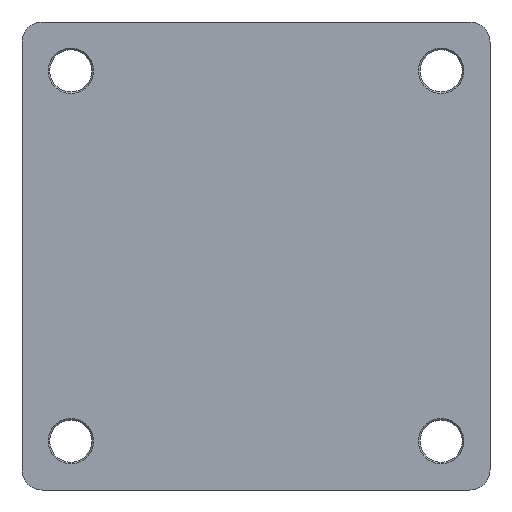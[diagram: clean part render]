
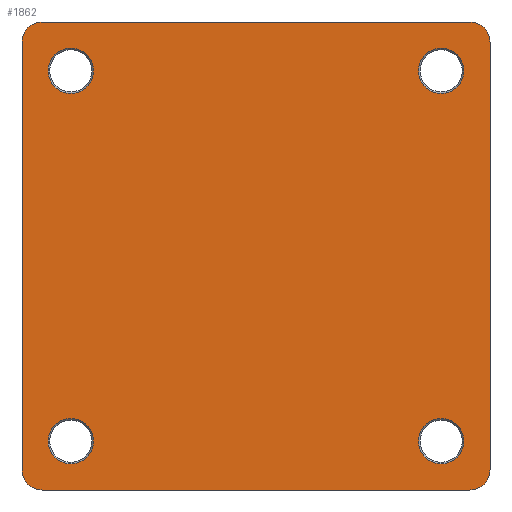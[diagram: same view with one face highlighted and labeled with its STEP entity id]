
A CAD part, left-side view. The second image highlights one B-rep face of the part: STEP entity #1862.
In plain terms, the highlighted planar face has unit normal (-1, 0, 0).
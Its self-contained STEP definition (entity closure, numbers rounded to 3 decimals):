
#3 = CARTESIAN_POINT ( 'NONE',  ( -17., 55., -48.25 ) ) ;
#19 = CIRCLE ( 'NONE', #1056, 6.75 ) ;
#28 = CARTESIAN_POINT ( 'NONE',  ( -17., 55., -61.75 ) ) ;
#47 = CIRCLE ( 'NONE', #243, 6.75 ) ;
#53 = VECTOR ( 'NONE', #1467, 1000. ) ;
#64 = EDGE_CURVE ( 'NONE', #103, #190, #559, .T. ) ;
#68 = EDGE_CURVE ( 'NONE', #1754, #1731, #1206, .T. ) ;
#77 = DIRECTION ( 'NONE',  ( 0., 0., 1. ) ) ;
#96 = DIRECTION ( 'NONE',  ( 0., 0., -1. ) ) ;
#103 = VERTEX_POINT ( 'NONE', #1599 ) ;
#104 = EDGE_CURVE ( 'NONE', #465, #1006, #461, .T. ) ;
#109 = DIRECTION ( 'NONE',  ( 0., 0., -1. ) ) ;
#137 = VERTEX_POINT ( 'NONE', #1951 ) ;
#140 = CARTESIAN_POINT ( 'NONE',  ( -17., -63.5, 69.5 ) ) ;
#141 = VERTEX_POINT ( 'NONE', #484 ) ;
#147 = AXIS2_PLACEMENT_3D ( 'NONE', #1979, #992, #96 ) ;
#158 = VERTEX_POINT ( 'NONE', #630 ) ;
#187 = VERTEX_POINT ( 'NONE', #3 ) ;
#190 = VERTEX_POINT ( 'NONE', #1147 ) ;
#200 = AXIS2_PLACEMENT_3D ( 'NONE', #1297, #973, #334 ) ;
#212 = ORIENTED_EDGE ( 'NONE', *, *, #1107, .F. ) ;
#217 = EDGE_CURVE ( 'NONE', #912, #158, #1810, .T. ) ;
#243 = AXIS2_PLACEMENT_3D ( 'NONE', #740, #574, #2041 ) ;
#272 = VECTOR ( 'NONE', #471, 1000. ) ;
#322 = EDGE_CURVE ( 'NONE', #1037, #137, #2107, .T. ) ;
#334 = DIRECTION ( 'NONE',  ( 0., 0., -1. ) ) ;
#350 = CARTESIAN_POINT ( 'NONE',  ( -17., -63.5, -69.5 ) ) ;
#380 = AXIS2_PLACEMENT_3D ( 'NONE', #2005, #1727, #386 ) ;
#386 = DIRECTION ( 'NONE',  ( 0., 0., 1. ) ) ;
#418 = ORIENTED_EDGE ( 'NONE', *, *, #1233, .F. ) ;
#419 = DIRECTION ( 'NONE',  ( 0., -1., 0. ) ) ;
#424 = VECTOR ( 'NONE', #419, 1000. ) ;
#425 = CARTESIAN_POINT ( 'NONE',  ( -17., -69.5, 63.5 ) ) ;
#454 = CIRCLE ( 'NONE', #380, 6.75 ) ;
#461 = LINE ( 'NONE', #1286, #53 ) ;
#465 = VERTEX_POINT ( 'NONE', #1848 ) ;
#471 = DIRECTION ( 'NONE',  ( 0., 0., -1. ) ) ;
#484 = CARTESIAN_POINT ( 'NONE',  ( -17., -69.5, 63.5 ) ) ;
#508 = CARTESIAN_POINT ( 'NONE',  ( -17., -55., 55. ) ) ;
#514 = DIRECTION ( 'NONE',  ( 0., 1., 0. ) ) ;
#533 = DIRECTION ( 'NONE',  ( 0., 0., 1. ) ) ;
#559 = CIRCLE ( 'NONE', #565, 6.75 ) ;
#565 = AXIS2_PLACEMENT_3D ( 'NONE', #1304, #961, #1140 ) ;
#574 = DIRECTION ( 'NONE',  ( -1., 0., 0. ) ) ;
#581 = ORIENTED_EDGE ( 'NONE', *, *, #1020, .F. ) ;
#591 = FACE_BOUND ( 'NONE', #879, .T. ) ;
#613 = ORIENTED_EDGE ( 'NONE', *, *, #642, .F. ) ;
#629 = AXIS2_PLACEMENT_3D ( 'NONE', #1980, #993, #533 ) ;
#630 = CARTESIAN_POINT ( 'NONE',  ( -17., -55., 61.75 ) ) ;
#637 = CARTESIAN_POINT ( 'NONE',  ( -17., 55., 55. ) ) ;
#642 = EDGE_CURVE ( 'NONE', #1731, #1259, #1274, .T. ) ;
#647 = CIRCLE ( 'NONE', #1476, 6. ) ;
#664 = DIRECTION ( 'NONE',  ( -1., 0., 0. ) ) ;
#670 = VECTOR ( 'NONE', #514, 1000. ) ;
#686 = FACE_BOUND ( 'NONE', #1472, .T. ) ;
#688 = ORIENTED_EDGE ( 'NONE', *, *, #1523, .F. ) ;
#740 = CARTESIAN_POINT ( 'NONE',  ( -17., -55., -55. ) ) ;
#744 = DIRECTION ( 'NONE',  ( -1., 0., 0. ) ) ;
#760 = AXIS2_PLACEMENT_3D ( 'NONE', #1337, #1160, #1490 ) ;
#773 = CIRCLE ( 'NONE', #787, 6.75 ) ;
#787 = AXIS2_PLACEMENT_3D ( 'NONE', #1721, #1043, #77 ) ;
#790 = ORIENTED_EDGE ( 'NONE', *, *, #68, .F. ) ;
#804 = DIRECTION ( 'NONE',  ( 1., 0., 0. ) ) ;
#812 = ORIENTED_EDGE ( 'NONE', *, *, #322, .F. ) ;
#832 = EDGE_LOOP ( 'NONE', ( #418, #688, #1184, #1841, #212, #613, #790, #1479 ) ) ;
#874 = CARTESIAN_POINT ( 'NONE',  ( -17., -55., 48.25 ) ) ;
#879 = EDGE_LOOP ( 'NONE', ( #1401, #581 ) ) ;
#912 = VERTEX_POINT ( 'NONE', #874 ) ;
#952 = CARTESIAN_POINT ( 'NONE',  ( -17., -63.5, 63.5 ) ) ;
#961 = DIRECTION ( 'NONE',  ( -1., 0., 0. ) ) ;
#963 = CIRCLE ( 'NONE', #147, 6. ) ;
#973 = DIRECTION ( 'NONE',  ( 1., 0., 0. ) ) ;
#975 = CIRCLE ( 'NONE', #629, 6.75 ) ;
#992 = DIRECTION ( 'NONE',  ( 1., 0., 0. ) ) ;
#993 = DIRECTION ( 'NONE',  ( -1., 0., 0. ) ) ;
#1006 = VERTEX_POINT ( 'NONE', #1281 ) ;
#1015 = ORIENTED_EDGE ( 'NONE', *, *, #1698, .F. ) ;
#1020 = EDGE_CURVE ( 'NONE', #190, #103, #19, .T. ) ;
#1037 = VERTEX_POINT ( 'NONE', #1559 ) ;
#1043 = DIRECTION ( 'NONE',  ( -1., 0., 0. ) ) ;
#1051 = ORIENTED_EDGE ( 'NONE', *, *, #1289, .F. ) ;
#1054 = CARTESIAN_POINT ( 'NONE',  ( -17., -63.5, -69.5 ) ) ;
#1056 = AXIS2_PLACEMENT_3D ( 'NONE', #637, #744, #1785 ) ;
#1061 = FACE_OUTER_BOUND ( 'NONE', #832, .T. ) ;
#1069 = DIRECTION ( 'NONE',  ( 1., 0., 0. ) ) ;
#1079 = EDGE_LOOP ( 'NONE', ( #1707, #812 ) ) ;
#1085 = EDGE_CURVE ( 'NONE', #141, #1754, #1384, .T. ) ;
#1107 = EDGE_CURVE ( 'NONE', #1259, #465, #1466, .T. ) ;
#1115 = FACE_BOUND ( 'NONE', #1675, .T. ) ;
#1120 = DIRECTION ( 'NONE',  ( 0., 0., -1. ) ) ;
#1140 = DIRECTION ( 'NONE',  ( 0., 0., 1. ) ) ;
#1147 = CARTESIAN_POINT ( 'NONE',  ( -17., 55., 48.25 ) ) ;
#1159 = CARTESIAN_POINT ( 'NONE',  ( -17., 63.5, -69.5 ) ) ;
#1160 = DIRECTION ( 'NONE',  ( -1., 0., 0. ) ) ;
#1184 = ORIENTED_EDGE ( 'NONE', *, *, #2112, .F. ) ;
#1206 = CIRCLE ( 'NONE', #1584, 6. ) ;
#1224 = LINE ( 'NONE', #1390, #424 ) ;
#1233 = EDGE_CURVE ( 'NONE', #1822, #141, #647, .T. ) ;
#1259 = VERTEX_POINT ( 'NONE', #1159 ) ;
#1274 = LINE ( 'NONE', #350, #670 ) ;
#1281 = CARTESIAN_POINT ( 'NONE',  ( -17., 69.5, 63.5 ) ) ;
#1286 = CARTESIAN_POINT ( 'NONE',  ( -17., 69.5, -63.5 ) ) ;
#1289 = EDGE_CURVE ( 'NONE', #2115, #187, #975, .T. ) ;
#1292 = DIRECTION ( 'NONE',  ( 0., 0., -1. ) ) ;
#1295 = ORIENTED_EDGE ( 'NONE', *, *, #1513, .F. ) ;
#1297 = CARTESIAN_POINT ( 'NONE',  ( -17., 63.5, -63.5 ) ) ;
#1303 = PLANE ( 'NONE',  #1955 ) ;
#1304 = CARTESIAN_POINT ( 'NONE',  ( -17., 55., 55. ) ) ;
#1337 = CARTESIAN_POINT ( 'NONE',  ( -17., -55., -55. ) ) ;
#1349 = CARTESIAN_POINT ( 'NONE',  ( -17., 63.5, 69.5 ) ) ;
#1384 = LINE ( 'NONE', #425, #272 ) ;
#1390 = CARTESIAN_POINT ( 'NONE',  ( -17., 63.5, 69.5 ) ) ;
#1401 = ORIENTED_EDGE ( 'NONE', *, *, #64, .F. ) ;
#1417 = CARTESIAN_POINT ( 'NONE',  ( -17., -69.5, -63.5 ) ) ;
#1457 = CARTESIAN_POINT ( 'NONE',  ( -17., -63.5, -63.5 ) ) ;
#1466 = CIRCLE ( 'NONE', #200, 6. ) ;
#1467 = DIRECTION ( 'NONE',  ( 0., 0., 1. ) ) ;
#1472 = EDGE_LOOP ( 'NONE', ( #1015, #1554 ) ) ;
#1475 = EDGE_CURVE ( 'NONE', #137, #1037, #47, .T. ) ;
#1476 = AXIS2_PLACEMENT_3D ( 'NONE', #2059, #1069, #109 ) ;
#1479 = ORIENTED_EDGE ( 'NONE', *, *, #1085, .F. ) ;
#1490 = DIRECTION ( 'NONE',  ( 0., 0., 1. ) ) ;
#1513 = EDGE_CURVE ( 'NONE', #187, #2115, #454, .T. ) ;
#1523 = EDGE_CURVE ( 'NONE', #1527, #1822, #1224, .T. ) ;
#1527 = VERTEX_POINT ( 'NONE', #1349 ) ;
#1554 = ORIENTED_EDGE ( 'NONE', *, *, #217, .F. ) ;
#1559 = CARTESIAN_POINT ( 'NONE',  ( -17., -55., -61.75 ) ) ;
#1584 = AXIS2_PLACEMENT_3D ( 'NONE', #1457, #1958, #1292 ) ;
#1599 = CARTESIAN_POINT ( 'NONE',  ( -17., 55., 61.75 ) ) ;
#1675 = EDGE_LOOP ( 'NONE', ( #1295, #1051 ) ) ;
#1698 = EDGE_CURVE ( 'NONE', #158, #912, #773, .T. ) ;
#1707 = ORIENTED_EDGE ( 'NONE', *, *, #1475, .F. ) ;
#1721 = CARTESIAN_POINT ( 'NONE',  ( -17., -55., 55. ) ) ;
#1727 = DIRECTION ( 'NONE',  ( -1., 0., 0. ) ) ;
#1731 = VERTEX_POINT ( 'NONE', #1054 ) ;
#1754 = VERTEX_POINT ( 'NONE', #1417 ) ;
#1785 = DIRECTION ( 'NONE',  ( 0., 0., 1. ) ) ;
#1793 = FACE_BOUND ( 'NONE', #1079, .T. ) ;
#1810 = CIRCLE ( 'NONE', #1857, 6.75 ) ;
#1812 = DIRECTION ( 'NONE',  ( 0., 0., 1. ) ) ;
#1822 = VERTEX_POINT ( 'NONE', #140 ) ;
#1841 = ORIENTED_EDGE ( 'NONE', *, *, #104, .F. ) ;
#1848 = CARTESIAN_POINT ( 'NONE',  ( -17., 69.5, -63.5 ) ) ;
#1857 = AXIS2_PLACEMENT_3D ( 'NONE', #508, #664, #1812 ) ;
#1862 = ADVANCED_FACE ( 'NONE', ( #1115, #591, #1793, #686, #1061 ), #1303, .F. ) ;
#1951 = CARTESIAN_POINT ( 'NONE',  ( -17., -55., -48.25 ) ) ;
#1955 = AXIS2_PLACEMENT_3D ( 'NONE', #952, #804, #1120 ) ;
#1958 = DIRECTION ( 'NONE',  ( 1., 0., 0. ) ) ;
#1979 = CARTESIAN_POINT ( 'NONE',  ( -17., 63.5, 63.5 ) ) ;
#1980 = CARTESIAN_POINT ( 'NONE',  ( -17., 55., -55. ) ) ;
#2005 = CARTESIAN_POINT ( 'NONE',  ( -17., 55., -55. ) ) ;
#2041 = DIRECTION ( 'NONE',  ( 0., 0., 1. ) ) ;
#2059 = CARTESIAN_POINT ( 'NONE',  ( -17., -63.5, 63.5 ) ) ;
#2107 = CIRCLE ( 'NONE', #760, 6.75 ) ;
#2112 = EDGE_CURVE ( 'NONE', #1006, #1527, #963, .T. ) ;
#2115 = VERTEX_POINT ( 'NONE', #28 ) ;
